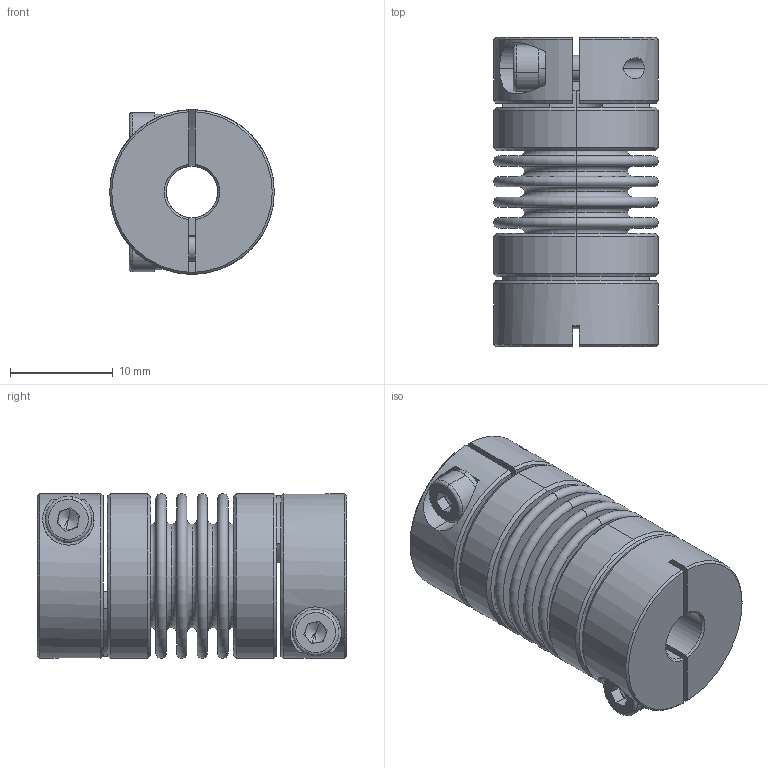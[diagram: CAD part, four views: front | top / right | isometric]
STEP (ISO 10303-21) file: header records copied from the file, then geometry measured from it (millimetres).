
FILE_DESCRIPTION (( 'STEP AP203' ), '1' );
FILE_NAME ('LB-B-D16L30-5-6.STEP', '2021-11-04T01:13:23', ( '' ), ( '' ), 'SwSTEP 2.0', 'SolidWorks 2018', '' );
FILE_SCHEMA (( 'CONFIG_CONTROL_DESIGN' ));
Length unit declared in the file: millimetre
Products named in the file (2): LB-B-D16L30-5-6; 零件1^LB-B-D16L30 波纹管联轴器-组装体
Assembly tree (1 placements, depth 2):
  LB-B-D16L30-5-6
    零件1^LB-B-D16L30 波纹管联轴器-组装体
Bounding box: 16 x 30.04 x 16 mm (x, y, z)
Volume: 3202.9 mm3; surface area: 6456.3 mm2
Topology: 1 solids, 1 shells, 254 faces, 586 edges, 362 vertices
Faces by surface type: plane 86, torus 68, cylinder 66, cone 34
Entity records: 7660 total; most frequent: CARTESIAN_POINT 1472, DIRECTION 1420, ORIENTED_EDGE 1164, AXIS2_PLACEMENT_3D 622, EDGE_CURVE 582, CIRCLE 364, VERTEX_POINT 362, EDGE_LOOP 296
